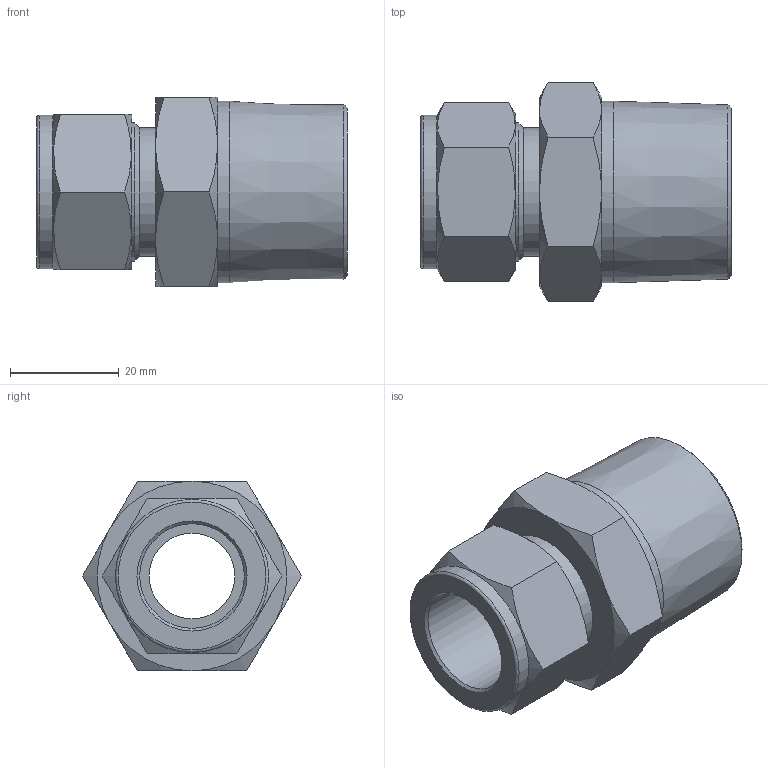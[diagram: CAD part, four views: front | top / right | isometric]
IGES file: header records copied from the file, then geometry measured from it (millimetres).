
Global section: file name: No Iges File Name specified; native system: Autodesk Inventor 2012; preprocessor: AutoDesk Inventor Iges Exporter R2012; author: 硅己绕,,1; organization: 1; date: 20150603.093330; units: millimetre
Bounding box: 57.19 x 40.3 x 34.9 mm (x, y, z)
Volume: 32652 mm3; surface area: 10849.9 mm2
Topology: 1 solids, 1 shells, 45 faces, 93 edges, 55 vertices
Faces by surface type: plane 19, cone 17, revolution 4, cylinder 4, torus 1
Full cylindrical faces by diameter (mm): 23.7 x1, 25.4 x1, 28.2 x1, 33.4 x1
